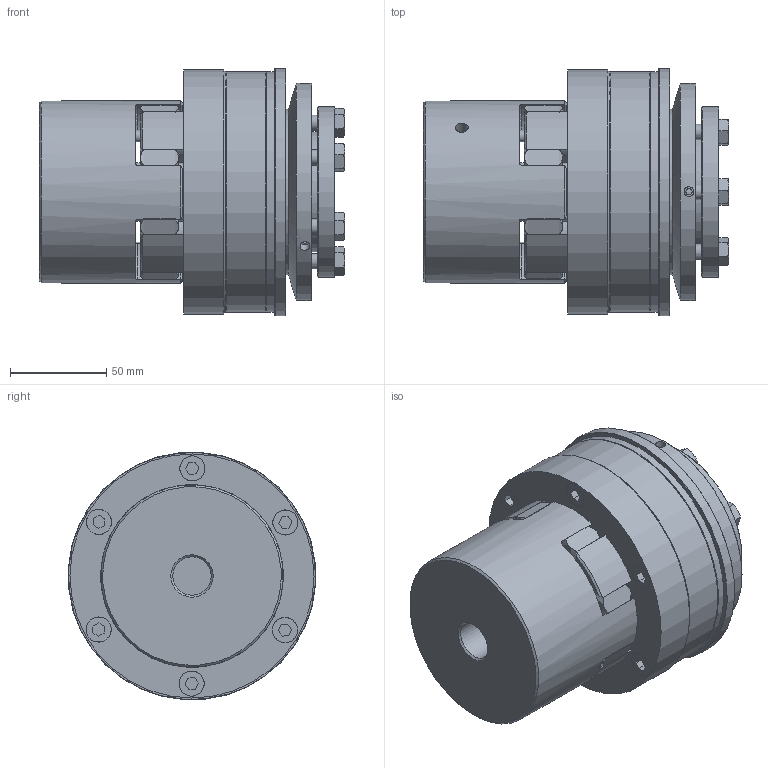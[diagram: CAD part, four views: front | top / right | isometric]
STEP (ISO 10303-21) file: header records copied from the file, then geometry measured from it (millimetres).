
FILE_DESCRIPTION( ( 'Unknown' ), '1' );
FILE_NAME( 'C:/Users/skarpstein/Desktop/Korrigierte 3D Modelle/KBK-E-PI/KBK EPI-42.stp', 'Unknown', ( 'Unknown' ), ( 'Unknown' ), 'PSStep 16.0.42', 'Unknown', ' ' );
FILE_SCHEMA( ( 'AUTOMOTIVE_DESIGN { 1 0 10303 214 1 1 1 1 }' ) );
Length unit declared in the file: millimetre
Products named in the file (30): ball_bearing_-_6013_0_02; ball_bearing_-_6013_0_01; Zylinderschraube DIN 912_4; ball_bearing_-_6013_0_03; KBK L-I-500 Grundkörper; Druckring 500; Stellring 500; a_65; Flansch 500; Konusbuchse 500; Assem1_4; Elastormerflansch 42; Assem3_0; Zahnkranz 42; din_en_24017_m8x30_1; Assem1; KBE 1 - 42_Nabe
Assembly tree (39 placements, depth 4):
  Assem1
    KBE 1 - 42_Nabe
    KBK L-I-500 Grundkörper
      KBK L-I-500 Grundkörper
    Konusbuchse 500
      Konusbuchse 500
    Stellring 500
      Stellring 500
    Druckring 500
      Druckring 500
    Flansch 500
      Flansch 500
    a_65
      a_65
    din_en_24017_m8x30_1  x6
      din_en_24017_m8x30_1
    Elastormerflansch 42
      Elastormerflansch 42
    Zahnkranz 42
      Zahnkranz 42
    Assem3_0
      ball_bearing_-_6013_0_01
        ball_bearing_-_6013_0_01
      ball_bearing_-_6013_0_02
        ball_bearing_-_6013_0_02
      ball_bearing_-_6013_0_03
        ball_bearing_-_6013_0_03
    Assem1_4  x6
      Zylinderschraube DIN 912_4
        Zylinderschraube DIN 912_4
Bounding box: 158.84 x 128.68 x 128.68 mm (x, y, z)
Volume: 1142124.6 mm3; surface area: 287862.3 mm2
Topology: 24 solids, 24 shells, 580 faces, 1287 edges, 826 vertices
Faces by surface type: plane 219, cylinder 177, cone 157, torus 27
Full cylindrical faces by diameter (mm): 3 x2, 3.242 x3, 5.1 x3, 5.2 x3, 6 x8, 6.647 x16, 8 x12, 8.2 x6, 9 x6, 11.63 x6, 13 x6, 13.1 x6, 20 x1, 35 x2, 40 x1, 46 x2, 62 x1, 62.6 x1, 65 x3, 76.3 x2, 86 x2, 89 x1, 89.1 x2, 91 x1, 95 x1, 100 x3, 104.5 x1, 113 x1, 114 x1, 125 x2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
Entity records: 15188 total; most frequent: CARTESIAN_POINT 2726, DIRECTION 1988, ORIENTED_EDGE 1490, AXIS2_PLACEMENT_3D 923, EDGE_CURVE 745, EDGE_LOOP 648, VERTEX_POINT 553, FACE_OUTER_BOUND 504
